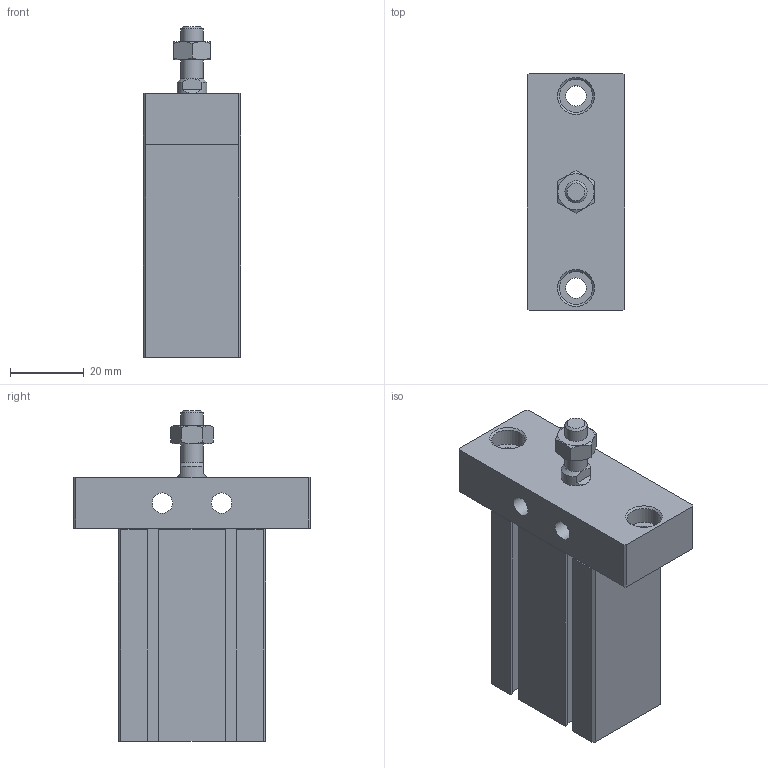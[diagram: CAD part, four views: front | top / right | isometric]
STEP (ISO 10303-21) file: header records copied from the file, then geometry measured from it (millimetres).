
FILE_DESCRIPTION((''),'2;1');
FILE_NAME('J:\3D電子目錄\氣缸\ND\ND\ND20-FBS\ND20x20-FBS.stp','2008-03-13T09:45:26',('66-2f-008'),(''),'Autodesk Inventor 11','Autodesk Inventor 11','');
FILE_SCHEMA(('AUTOMOTIVE_DESIGN { 1 0 10303 214 1 1 1 1 }'));
Length unit declared in the file: millimetre
Products named in the file (1): ND20-FBS
Bounding box: 26.4 x 64 x 89.5 mm (x, y, z)
Volume: 75915.8 mm3; surface area: 19470.4 mm2
Topology: 2 solids, 2 shells, 128 faces, 330 edges, 211 vertices
Faces by surface type: plane 85, cylinder 16, bspline 14, cone 12, torus 1
Full cylindrical faces by diameter (mm): 1.5 x2, 5.5 x2, 6 x2, 9 x2, 13 x1, 21 x1
Entity records: 3810 total; most frequent: CARTESIAN_POINT 843, ORIENTED_EDGE 588, DIRECTION 572, EDGE_CURVE 294, VECTOR 214, LINE 214, VERTEX_POINT 206, EDGE_LOOP 180
